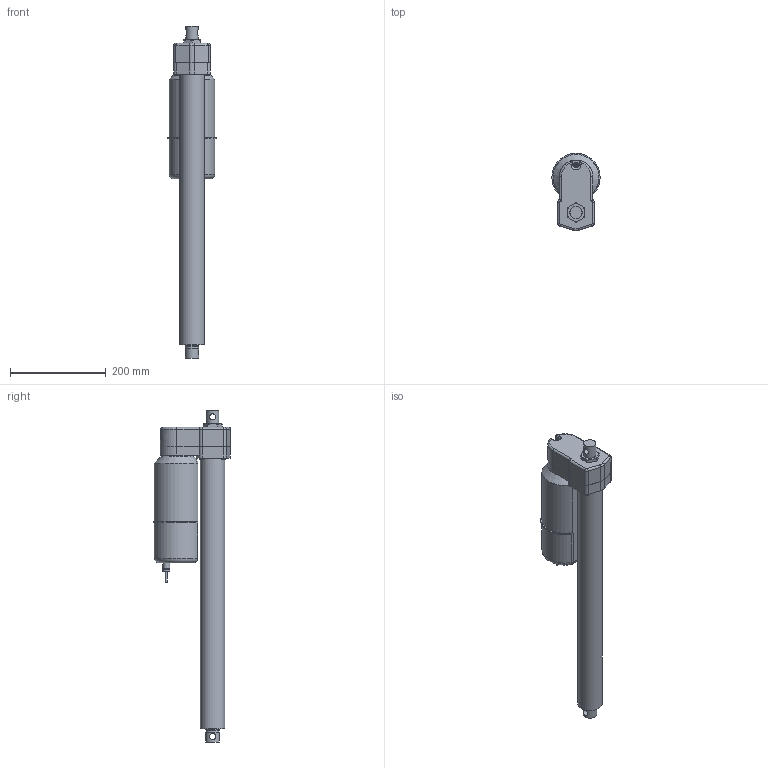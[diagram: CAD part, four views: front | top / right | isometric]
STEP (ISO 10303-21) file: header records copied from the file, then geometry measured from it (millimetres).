
FILE_DESCRIPTION (( 'STEP AP214' ), '1' );
FILE_NAME ('A22-05A5-18M0N-tollo.step', '2020-04-05T12:00:57', ( '' ), ( '' ), 'SwSTEP 2.0', 'SolidWorks 2010', '' );
FILE_SCHEMA (( 'AUTOMOTIVE_DESIGN' ));
Length unit declared in the file: millimetre
Products named in the file (7): Electrak-LA5-Motor-A22-05A5-18M0N-tollo_Electrak-LA5-Motor-A22-05A5-18M0N-tollo; Electrak-LA5-Rear-A22-05A5-18M0N-tollo_Electrak-LA5-Rear-A22-05A5-18M0N-tollo; Electrak-LA5-Tube-A22-05A5-18M0N-tollo_Electrak-LA5-Tube-A22-05A5-18M0N-tollo; Electrak-LA5-Rod-A22-05A5-18M0N-tollo_Electrak-LA5-Rod-A22-05A5-18M0N-tollo; Screw-MFX-H-M5-A22-05A5-18M0N-tollo_Screw-MFX-H-M5-A22-05A5-18M0N-tollo; Screw-M6S-M5-A22-05A5-18M0N-tollo_Screw-M6S-M5-A22-05A5-18M0N-tollo; A22-05A5-18M0N-tollo
Assembly tree (9 placements, depth 2):
  A22-05A5-18M0N-tollo
    Electrak-LA5-Tube-A22-05A5-18M0N-tollo_Electrak-LA5-Tube-A22-05A5-18M0N-tollo
    Screw-M6S-M5-A22-05A5-18M0N-tollo_Screw-M6S-M5-A22-05A5-18M0N-tollo  x4
    Electrak-LA5-Rod-A22-05A5-18M0N-tollo_Electrak-LA5-Rod-A22-05A5-18M0N-tollo
    Electrak-LA5-Rear-A22-05A5-18M0N-tollo_Electrak-LA5-Rear-A22-05A5-18M0N-tollo
    Screw-MFX-H-M5-A22-05A5-18M0N-tollo_Screw-MFX-H-M5-A22-05A5-18M0N-tollo
    Electrak-LA5-Motor-A22-05A5-18M0N-tollo_Electrak-LA5-Motor-A22-05A5-18M0N-tollo
Bounding box: 100.99 x 162.5 x 694.6 mm (x, y, z)
Volume: 3315420.5 mm3; surface area: 339747.8 mm2
Topology: 9 solids, 9 shells, 238 faces, 549 edges, 347 vertices
Faces by surface type: plane 95, cylinder 92, cone 31, torus 15, bspline 3, sphere 2
Full cylindrical faces by diameter (mm): 4 x1, 4.126 x5, 4.8 x2, 5 x13, 7.878 x4, 9.3 x1, 10 x1, 12.8 x2, 15 x2, 25.4 x1, 28.6 x4, 51.3 x1, 68 x1
Entity records: 5776 total; most frequent: CARTESIAN_POINT 1721, DIRECTION 806, ORIENTED_EDGE 666, AXIS2_PLACEMENT_3D 339, EDGE_CURVE 333, EDGE_LOOP 245, VERTEX_POINT 236, FACE_OUTER_BOUND 198
